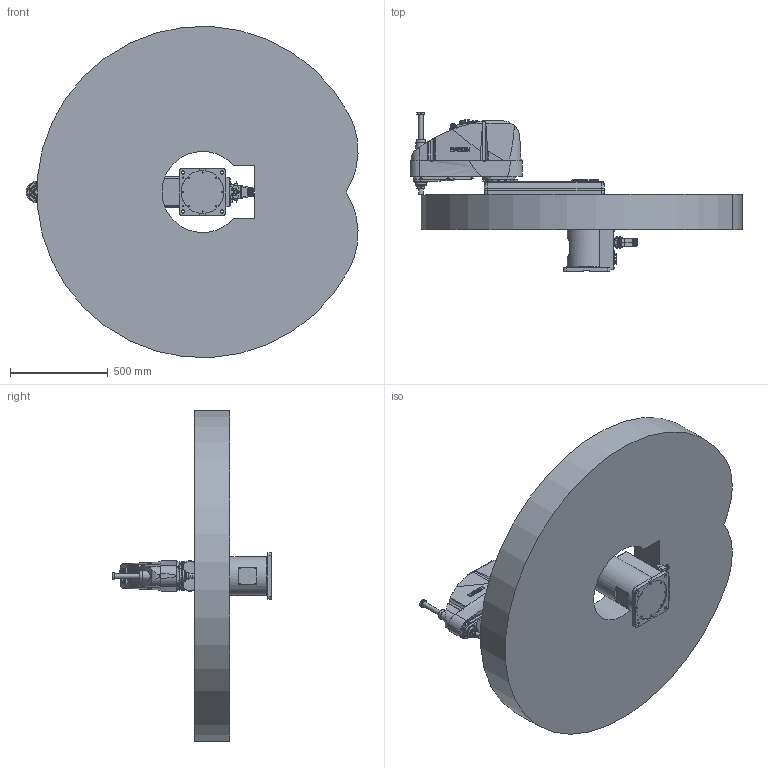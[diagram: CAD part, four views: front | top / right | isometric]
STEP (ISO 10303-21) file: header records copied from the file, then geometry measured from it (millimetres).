
FILE_DESCRIPTION( ( 'STEP AP214' ), '1' );
FILE_NAME( 'C:/Users/9607552/Desktop/GX10-B851S_straight.stp', '2023-08-01T09:13:55', ( '' ), ( '' ), ' ', 'PARTsolutions', ' ' );
FILE_SCHEMA( ( 'AUTOMOTIVE_DESIGN { 1 0 10303 214 1 1 1 1 }' ) );
Length unit declared in the file: millimetre
Products named in the file (7): GX10-B851SS-W; _Base s; _Straight-B; _J1 Arm GX10-450; _J2 Arm GX10-s; _J3 Arm GX10-s (1); _GX10_20B-22_1
Assembly tree (6 placements, depth 2):
  GX10-B851SS-W
    _Base s
    _Straight-B
    _J1 Arm GX10-450
    _J2 Arm GX10-s
    _J3 Arm GX10-s (1)
    _GX10_20B-22_1
Bounding box: 1702.55 x 813.5 x 1697.41 mm (x, y, z)
Volume: 415896071.5 mm3; surface area: 6803716.2 mm2
Topology: 6 solids, 6 shells, 2420 faces, 5915 edges, 3855 vertices
Faces by surface type: plane 1254, cylinder 740, cone 328, torus 65, bspline 32, sphere 1
Full cylindrical faces by diameter (mm): 1 x24, 1.18 x55, 3 x32, 3.242 x10, 3.3 x4, 4.2 x4, 4.8 x4, 5.1 x4, 5.25 x2, 5.34 x4, 5.4 x5, 5.5 x12, 6 x1, 6.2 x4, 6.647 x2, 7 x31, 8 x9, 8.5 x2, 9 x4, 10 x32, 11 x14, 12 x6, 12.25 x1, 13 x2, 14 x8, 14.25 x1, 16 x6, 18 x1, 20.4 x1, 21.7 x2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
Entity records: 91839 total; most frequent: CARTESIAN_POINT 17766, DIRECTION 11264, ORIENTED_EDGE 10522, EDGE_CURVE 5261, AXIS2_PLACEMENT_3D 4332, VERTEX_POINT 3770, EDGE_LOOP 3363, FACE_OUTER_BOUND 2782
